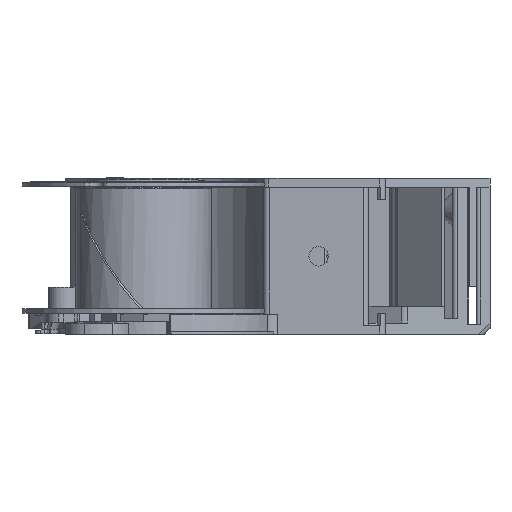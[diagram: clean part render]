
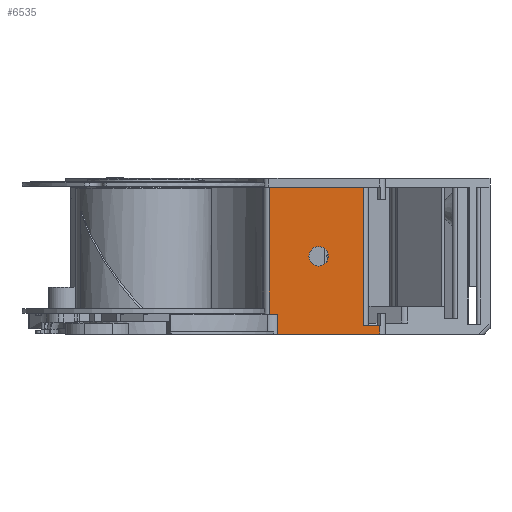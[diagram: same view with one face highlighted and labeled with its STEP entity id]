
A CAD part, left-side view. The second image highlights one B-rep face of the part: STEP entity #6535.
In plain terms, the highlighted planar face has unit normal (-1, 0, 0).
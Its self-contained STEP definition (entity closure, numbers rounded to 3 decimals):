
#1669 = LINE ( 'NONE', #24496, #10145 ) ;
#1695 = CARTESIAN_POINT ( 'NONE',  ( -90.652, 7.4, 3.6 ) ) ;
#1734 = CARTESIAN_POINT ( 'NONE',  ( -90.652, -13.5, 1.6 ) ) ;
#2055 = DIRECTION ( 'NONE',  ( 0., 0., 1. ) ) ;
#2305 = CARTESIAN_POINT ( 'NONE',  ( -90.652, 5.801, 0. ) ) ;
#4528 = AXIS2_PLACEMENT_3D ( 'NONE', #61074, #49618, #13903 ) ;
#5433 = EDGE_CURVE ( 'NONE', #41661, #41661, #38603, .T. ) ;
#5607 = ORIENTED_EDGE ( 'NONE', *, *, #5433, .F. ) ;
#5689 = DIRECTION ( 'NONE',  ( 0., 1., 0. ) ) ;
#5694 = VERTEX_POINT ( 'NONE', #34425 ) ;
#6535 = ADVANCED_FACE ( 'NONE', ( #50173, #73415 ), #66958, .T. ) ;
#6917 = EDGE_CURVE ( 'NONE', #5694, #17250, #71069, .T. ) ;
#8391 = DIRECTION ( 'NONE',  ( 0., 0., 1. ) ) ;
#9551 = VERTEX_POINT ( 'NONE', #16152 ) ;
#9988 = LINE ( 'NONE', #33589, #17330 ) ;
#10145 = VECTOR ( 'NONE', #2055, 1000. ) ;
#12645 = EDGE_CURVE ( 'NONE', #9551, #25762, #43545, .T. ) ;
#13406 = VECTOR ( 'NONE', #5689, 1000. ) ;
#13903 = DIRECTION ( 'NONE',  ( 0., 0., 1. ) ) ;
#16152 = CARTESIAN_POINT ( 'NONE',  ( -90.652, -9.5, 26.4 ) ) ;
#16806 = CARTESIAN_POINT ( 'NONE',  ( -90.652, 31.571, 3.6 ) ) ;
#16877 = ORIENTED_EDGE ( 'NONE', *, *, #64538, .T. ) ;
#17250 = VERTEX_POINT ( 'NONE', #2305 ) ;
#17330 = VECTOR ( 'NONE', #27124, 1000. ) ;
#17435 = EDGE_CURVE ( 'NONE', #19914, #9551, #51296, .T. ) ;
#17732 = CARTESIAN_POINT ( 'NONE',  ( -90.652, -12.5, 1.6 ) ) ;
#19646 = EDGE_CURVE ( 'NONE', #25762, #31041, #9988, .T. ) ;
#19914 = VERTEX_POINT ( 'NONE', #57136 ) ;
#21278 = CARTESIAN_POINT ( 'NONE',  ( -90.652, 7.4, 26.4 ) ) ;
#21285 = DIRECTION ( 'NONE',  ( 0., 0., 1. ) ) ;
#22085 = CARTESIAN_POINT ( 'NONE',  ( -90.652, 0., 0. ) ) ;
#22796 = ORIENTED_EDGE ( 'NONE', *, *, #19646, .T. ) ;
#23421 = CARTESIAN_POINT ( 'NONE',  ( -90.652, -1.5, 15.75 ) ) ;
#24496 = CARTESIAN_POINT ( 'NONE',  ( -90.652, -12.5, 28.378 ) ) ;
#25762 = VERTEX_POINT ( 'NONE', #21278 ) ;
#26678 = VECTOR ( 'NONE', #53084, 1000. ) ;
#27004 = CARTESIAN_POINT ( 'NONE',  ( -90.652, 0., 28.378 ) ) ;
#27124 = DIRECTION ( 'NONE',  ( 0., 0., -1. ) ) ;
#31041 = VERTEX_POINT ( 'NONE', #1695 ) ;
#31648 = ORIENTED_EDGE ( 'NONE', *, *, #55938, .F. ) ;
#33589 = CARTESIAN_POINT ( 'NONE',  ( -90.652, 7.4, 3.6 ) ) ;
#34425 = CARTESIAN_POINT ( 'NONE',  ( -90.652, 5.801, 3.6 ) ) ;
#36362 = LINE ( 'NONE', #1734, #26678 ) ;
#36848 = CARTESIAN_POINT ( 'NONE',  ( -90.652, 5.801, 0. ) ) ;
#37533 = VECTOR ( 'NONE', #60025, 1000. ) ;
#37845 = ORIENTED_EDGE ( 'NONE', *, *, #6917, .T. ) ;
#38603 = CIRCLE ( 'NONE', #4528, 1.75 ) ;
#39943 = VERTEX_POINT ( 'NONE', #17732 ) ;
#40004 = DIRECTION ( 'NONE',  ( 0., 1., 0. ) ) ;
#40321 = LINE ( 'NONE', #22085, #13406 ) ;
#41661 = VERTEX_POINT ( 'NONE', #23421 ) ;
#43545 = LINE ( 'NONE', #72482, #63204 ) ;
#43967 = VECTOR ( 'NONE', #21285, 1000. ) ;
#45246 = EDGE_LOOP ( 'NONE', ( #59843, #22796, #70839, #37845, #31648, #16877, #63573, #48424 ) ) ;
#46553 = VERTEX_POINT ( 'NONE', #51592 ) ;
#47192 = AXIS2_PLACEMENT_3D ( 'NONE', #27004, #73787, #8391 ) ;
#48424 = ORIENTED_EDGE ( 'NONE', *, *, #17435, .T. ) ;
#49618 = DIRECTION ( 'NONE',  ( -1., 0., 0. ) ) ;
#50173 = FACE_BOUND ( 'NONE', #55891, .T. ) ;
#51296 = LINE ( 'NONE', #73403, #43967 ) ;
#51592 = CARTESIAN_POINT ( 'NONE',  ( -90.652, -12.5, 0. ) ) ;
#53084 = DIRECTION ( 'NONE',  ( 0., 1., 0. ) ) ;
#55891 = EDGE_LOOP ( 'NONE', ( #5607 ) ) ;
#55938 = EDGE_CURVE ( 'NONE', #46553, #17250, #40321, .T. ) ;
#56220 = EDGE_CURVE ( 'NONE', #39943, #19914, #36362, .T. ) ;
#57136 = CARTESIAN_POINT ( 'NONE',  ( -90.652, -9.5, 1.6 ) ) ;
#59843 = ORIENTED_EDGE ( 'NONE', *, *, #12645, .T. ) ;
#60025 = DIRECTION ( 'NONE',  ( 0., 0., -1. ) ) ;
#60298 = EDGE_CURVE ( 'NONE', #5694, #31041, #68899, .T. ) ;
#60686 = DIRECTION ( 'NONE',  ( 0., 1., 0. ) ) ;
#61074 = CARTESIAN_POINT ( 'NONE',  ( -90.652, -1.5, 14. ) ) ;
#63204 = VECTOR ( 'NONE', #60686, 1000. ) ;
#63573 = ORIENTED_EDGE ( 'NONE', *, *, #56220, .T. ) ;
#64538 = EDGE_CURVE ( 'NONE', #46553, #39943, #1669, .T. ) ;
#66958 = PLANE ( 'NONE',  #47192 ) ;
#67165 = VECTOR ( 'NONE', #40004, 1000. ) ;
#68899 = LINE ( 'NONE', #16806, #67165 ) ;
#70839 = ORIENTED_EDGE ( 'NONE', *, *, #60298, .F. ) ;
#71069 = LINE ( 'NONE', #36848, #37533 ) ;
#72482 = CARTESIAN_POINT ( 'NONE',  ( -90.652, 0., 26.4 ) ) ;
#73403 = CARTESIAN_POINT ( 'NONE',  ( -90.652, -9.5, 26.4 ) ) ;
#73415 = FACE_OUTER_BOUND ( 'NONE', #45246, .T. ) ;
#73787 = DIRECTION ( 'NONE',  ( -1., 0., 0. ) ) ;
